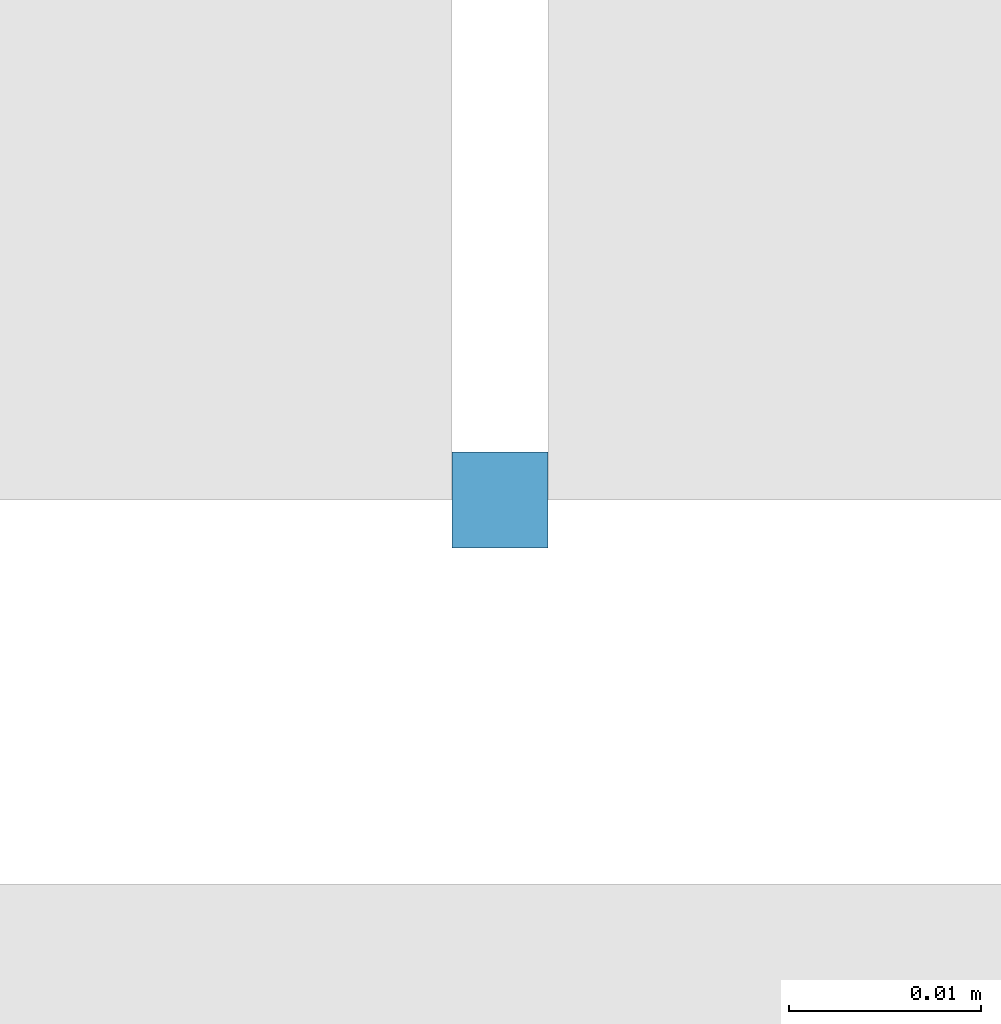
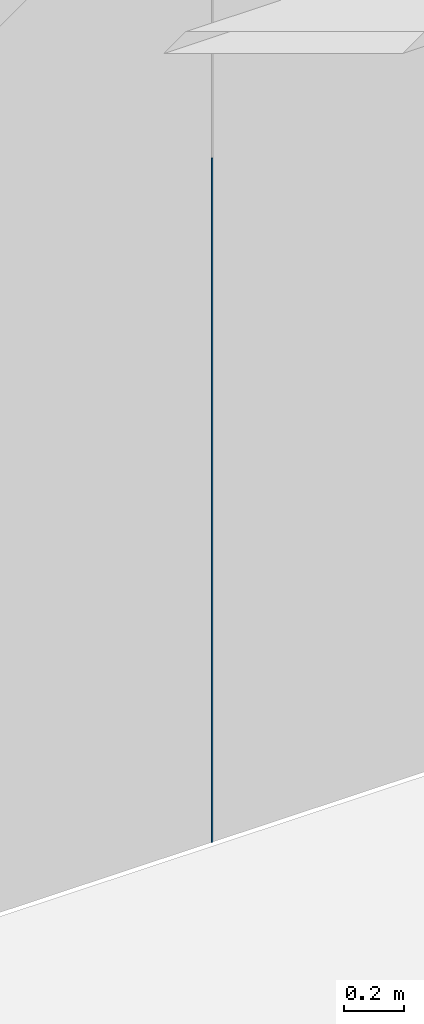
# One storey, part 78 of 302: 1 member, 1 element without a shape of its own.
"""IFC2X3 building model written with IfcOpenShell, lengths in metres."""

import ifcopenshell
import ifcopenshell.guid

model = None  # the IFC model being written
_history = None  # IfcOwnerHistory: only IFC2X3 demands one
_inside = {}  # id of a spatial element -> (the spatial element, [elements in it])
_under = {}  # id of a project, library or spatial element -> (it, [spatial elements below it])
_declared = {}  # id of a project -> (the project, [libraries it declares])
_typed = {}  # id of a type object -> (the type object, [elements of that type])
_made_of = {}  # id of a material, layer set ... -> (it, [elements and type objects made of it])


def new_model(schema):
    """Start an empty IFC model of exactly this schema.

    Asked for "IFC4X3", IfcOpenShell would pick the latest addendum, in which some entities
    have other attributes; the version numbers below select the first issue.
    IFC2X3 requires an IfcOwnerHistory on every rooted entity: one is made here for all.
    """
    global model, _history
    if schema == "IFC4X3":
        model = ifcopenshell.file(schema_version=(4, 3, 0, 0))
    else:
        model = ifcopenshell.file(schema=schema)
    _inside.clear()
    _under.clear()
    _declared.clear()
    _typed.clear()
    _made_of.clear()
    _history = None
    if model.schema == "IFC2X3":
        org = make("IfcOrganization", Name="unknown")
        user = make(
            "IfcPersonAndOrganization",
            ThePerson=make("IfcPerson", FamilyName="unknown"),
            TheOrganization=org,
        )
        app = make(
            "IfcApplication",
            ApplicationDeveloper=org,
            Version="unknown",
            ApplicationFullName="unknown",
            ApplicationIdentifier="unknown",
        )
        _history = make(
            "IfcOwnerHistory",
            OwningUser=user,
            OwningApplication=app,
            ChangeAction="ADDED",
            CreationDate=0,
        )
    return model


def make(cls, **values):
    """One entity of the class cls with the attributes given. An attribute that is None is left unset."""
    return model.create_entity(
        cls, **{name: value for name, value in values.items() if value is not None}
    )


def entity(cls, *values):
    """Any entity or typed value of the class cls, its attributes in the order of the schema. None: left unset."""
    e = model.create_entity(cls)
    for i, value in enumerate(values):
        if value is not None:
            e[i] = value
    return e


def rooted(cls, **values):
    """An entity with a GlobalId (a new one), such as an element, a storey or a relation."""
    return make(cls, GlobalId=ifcopenshell.guid.new(), OwnerHistory=_history, **values)


def si_unit(unit_type, name, prefix=None):
    """IfcSIUnit, for example si_unit("LENGTHUNIT", "METRE", prefix="MILLI")."""
    return make("IfcSIUnit", UnitType=unit_type, Prefix=prefix, Name=name)


def converted_unit(unit_type, name, factor, base, dimensions=None, offset=None):
    """IfcConversionBasedUnit, such as the inch: factor (a typed value) times the base unit."""
    return make(
        "IfcConversionBasedUnit"
        if offset is None
        else "IfcConversionBasedUnitWithOffset",
        ConversionOffset=offset,
        Dimensions=None
        if dimensions is None
        else entity("IfcDimensionalExponents", *dimensions),
        UnitType=unit_type,
        Name=name,
        ConversionFactor=make(
            "IfcMeasureWithUnit", ValueComponent=factor, UnitComponent=base
        ),
    )


def derived_unit(unit_type, elements):
    """IfcDerivedUnit: a product of units, each with its exponent."""
    return make(
        "IfcDerivedUnit",
        Elements=[
            make("IfcDerivedUnitElement", Unit=unit, Exponent=power)
            for unit, power in elements
        ],
        UnitType=unit_type,
    )


def assignment(units):
    """IfcUnitAssignment: the units of a project."""
    return None if units is None else make("IfcUnitAssignment", Units=units)


def point(xyz):
    """IfcCartesianPoint."""
    return None if xyz is None else make("IfcCartesianPoint", Coordinates=xyz)


def direction(xyz):
    """IfcDirection."""
    return None if xyz is None else make("IfcDirection", DirectionRatios=xyz)


def frame(location, z_axis=None, x_axis=None):
    """IfcAxis2Placement3D, a coordinate frame: its origin and axes. An axis left out is left unset."""
    return make(
        "IfcAxis2Placement3D",
        Location=point(location),
        Axis=direction(z_axis),
        RefDirection=direction(x_axis),
    )


def frame_2d(location, x_axis=None):
    """IfcAxis2Placement2D, a coordinate frame in the plane: its origin and x axis."""
    return make(
        "IfcAxis2Placement2D", Location=point(location), RefDirection=direction(x_axis)
    )


def origin():
    """The frame at (0, 0, 0) with its axes left unset."""
    return frame((0.0, 0.0, 0.0))


def place(relative_to, where):
    """IfcLocalPlacement: puts the frame where relative to a parent placement (None: the world)."""
    return make(
        "IfcLocalPlacement", PlacementRelTo=relative_to, RelativePlacement=where
    )


def context(
    kind, dimensions, precision=None, world=None, true_north=None, identifier=None
):
    """IfcGeometricRepresentationContext, for example the 3D "Model" context."""
    return make(
        "IfcGeometricRepresentationContext",
        ContextIdentifier=identifier,
        ContextType=kind,
        CoordinateSpaceDimension=dimensions,
        Precision=precision,
        WorldCoordinateSystem=world,
        TrueNorth=true_north,
    )


def subcontext(parent, identifier, kind, view, scale=None):
    """IfcGeometricRepresentationSubContext, for example "Body" below "Model"."""
    return make(
        "IfcGeometricRepresentationSubContext",
        ContextIdentifier=identifier,
        ContextType=kind,
        ParentContext=parent,
        TargetScale=scale,
        TargetView=view,
    )


def project(units=None, contexts=None):
    """IfcProject with its units and contexts."""
    return rooted(
        "IfcProject",
        Name="project",
        RepresentationContexts=contexts,
        UnitsInContext=assignment(units),
    )


def spatial(cls, under=None, at=None, **own):
    """A site, building, storey or space (cls), placed at a placement, below another one or the project."""
    s = rooted(cls, ObjectPlacement=at, **own)
    if under is not None:
        _under.setdefault(under.id(), (under, []))[1].append(s)
    return s


def profile(cls, at=None, kind="AREA", **sizes):
    """A parametric profile (cls). Its sizes go by their IFC names, for example OverallWidth=200.0."""
    return make(cls, ProfileType=kind, Position=at, **sizes)


def rectangle(**sizes):
    """IfcRectangleProfileDef."""
    return profile("IfcRectangleProfileDef", **sizes)


def extrude(swept, where, along, depth):
    """IfcExtrudedAreaSolid: the profile swept, set in the frame where, extruded along a direction by depth."""
    return make(
        "IfcExtrudedAreaSolid",
        SweptArea=swept,
        Position=where,
        ExtrudedDirection=direction(along),
        Depth=depth,
    )


def shape(context_of_items, identifier, shape_type, items):
    """IfcShapeRepresentation: the items that make up one representation, for example the "Body"."""
    return make(
        "IfcShapeRepresentation",
        ContextOfItems=context_of_items,
        RepresentationIdentifier=identifier,
        RepresentationType=shape_type,
        Items=items,
    )


def source(mapping_origin, context_of_items, identifier, shape_type, items):
    """IfcRepresentationMap: a shape defined once, which mapped items show again and again."""
    return make(
        "IfcRepresentationMap",
        MappingOrigin=mapping_origin,
        MappedRepresentation=shape(context_of_items, identifier, shape_type, items),
    )


def transform(
    local_origin,
    x_axis=None,
    y_axis=None,
    z_axis=None,
    scale=None,
    scale2=None,
    scale3=None,
    uniform=True,
):
    """IfcCartesianTransformationOperator3D, or its non-uniform kind. x_axis, y_axis, z_axis: its Axis1, 2, 3."""
    if uniform:
        return make(
            "IfcCartesianTransformationOperator3D",
            Axis1=direction(x_axis),
            Axis2=direction(y_axis),
            LocalOrigin=point(local_origin),
            Scale=scale,
            Axis3=direction(z_axis),
        )
    return make(
        "IfcCartesianTransformationOperator3DnonUniform",
        Axis1=direction(x_axis),
        Axis2=direction(y_axis),
        LocalOrigin=point(local_origin),
        Scale=scale,
        Axis3=direction(z_axis),
        Scale2=scale2,
        Scale3=scale3,
    )


def mapped(mapping_source, mapping_target):
    """IfcMappedItem: shows the shape of a source again, moved by a transform."""
    return make(
        "IfcMappedItem", MappingSource=mapping_source, MappingTarget=mapping_target
    )


def material(Name=None, Category=None):
    """IfcMaterial."""
    return make("IfcMaterial", Name=Name, Category=Category)


def made_of(thing, what):
    """Note that an element or type object is made of a material, layer set ...; save() writes the relation."""
    if what is not None:
        _made_of.setdefault(what.id(), (what, []))[1].append(thing)
    return thing


def type_object(cls, material=None, **own):
    """A type object (cls), such as IfcWallType, which elements share."""
    return made_of(rooted(cls, **own), material)


def type_shapes(of_type, sources):
    """Give a type object the sources (RepresentationMaps) that its elements show as mapped items."""
    of_type.RepresentationMaps = sources


def element(
    cls,
    number,
    at=None,
    inside=None,
    cuts=None,
    type_object=None,
    material=None,
    context=None,
    identifier="Body",
    shape_type=None,
    held_by="IfcProductDefinitionShape",
    body=None,
    shapes=None,
    **own,
):
    """One element of the class cls, such as IfcWall. Its Tag is "e" and its number.

    at: its placement. inside: the storey or other place that contains it. cuts: it is an
    opening in that element (IfcRelVoidsElement). A single representation is given by context,
    identifier, shape_type and body (its items); several are given by shapes. held_by: the class
    of the entity that holds the representations. save() writes the other relations.
    """
    e = rooted(cls, Tag="e%d" % number, ObjectPlacement=at, **own)
    if body is not None:
        shapes = [shape(context, identifier, shape_type, body)]
    if shapes is not None:
        e.Representation = make(held_by, Representations=shapes)
    if inside is not None:
        _inside.setdefault(inside.id(), (inside, []))[1].append(e)
    if cuts is not None:
        rooted(
            "IfcRelVoidsElement", RelatingBuildingElement=cuts, RelatedOpeningElement=e
        )
    if type_object is not None:
        _typed.setdefault(type_object.id(), (type_object, []))[1].append(e)
    return made_of(e, material)


def aggregate(whole, parts):
    """IfcRelAggregates: a whole, such as a stair, and the parts it consists of."""
    return rooted("IfcRelAggregates", RelatingObject=whole, RelatedObjects=parts)


def save(model, path):
    """Write the relations noted so far, then the file.

    IfcRelAggregates (storeys below a building ...), IfcRelContainedInSpatialStructure (elements
    in a storey), IfcRelDefinesByType, IfcRelAssociatesMaterial and IfcRelDeclares: one each for
    every whole, place, type object, material and project.
    """
    for whole, parts in _under.values():
        aggregate(whole, parts)
    for where, things in _inside.values():
        rooted(
            "IfcRelContainedInSpatialStructure",
            RelatedElements=things,
            RelatingStructure=where,
        )
    for kind, things in _typed.values():
        rooted("IfcRelDefinesByType", RelatedObjects=things, RelatingType=kind)
    for what, things in _made_of.values():
        rooted("IfcRelAssociatesMaterial", RelatedObjects=things, RelatingMaterial=what)
    for by, libraries in _declared.values():
        rooted("IfcRelDeclares", RelatingContext=by, RelatedDefinitions=libraries)
    model.write(path)


model = new_model("IFC2X3")

# Units and contexts
model_context = context("Model", 3, precision=1e-05, world=origin(), true_north=direction((6.12303176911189e-17, 1.0)))
body_context = subcontext(model_context, "Body", "Model", "MODEL_VIEW")
ifc_project = project(units=[si_unit("LENGTHUNIT", "METRE"), si_unit("AREAUNIT", "SQUARE_METRE"), si_unit("VOLUMEUNIT", "CUBIC_METRE"), converted_unit("PLANEANGLEUNIT", "DEGREE", entity("IfcRatioMeasure", 0.0174532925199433), si_unit("PLANEANGLEUNIT", "RADIAN"), dimensions=[0, 0, 0, 0, 0, 0, 0]), si_unit("MASSUNIT", "GRAM", prefix="KILO"), derived_unit("MASSDENSITYUNIT", [(si_unit("MASSUNIT", "GRAM", prefix="KILO"), 1), (si_unit("LENGTHUNIT", "METRE"), -3)]), derived_unit("MOMENTOFINERTIAUNIT", [(si_unit("LENGTHUNIT", "METRE"), 4)]), si_unit("TIMEUNIT", "SECOND"), si_unit("FREQUENCYUNIT", "HERTZ"), si_unit("THERMODYNAMICTEMPERATUREUNIT", "DEGREE_CELSIUS"), derived_unit("THERMALTRANSMITTANCEUNIT", [(si_unit("MASSUNIT", "GRAM", prefix="KILO"), 1), (si_unit("THERMODYNAMICTEMPERATUREUNIT", "KELVIN"), -1), (si_unit("TIMEUNIT", "SECOND"), -3)]), derived_unit("VOLUMETRICFLOWRATEUNIT", [(si_unit("LENGTHUNIT", "METRE"), 3), (si_unit("TIMEUNIT", "SECOND"), -1)]), si_unit("ELECTRICCURRENTUNIT", "AMPERE"), si_unit("ELECTRICVOLTAGEUNIT", "VOLT"), si_unit("POWERUNIT", "WATT"), si_unit("FORCEUNIT", "NEWTON", prefix="KILO"), si_unit("ILLUMINANCEUNIT", "LUX"), si_unit("LUMINOUSFLUXUNIT", "LUMEN"), si_unit("LUMINOUSINTENSITYUNIT", "CANDELA"), derived_unit("USERDEFINED", [(si_unit("MASSUNIT", "GRAM", prefix="KILO"), -1), (si_unit("LENGTHUNIT", "METRE"), -2), (si_unit("TIMEUNIT", "SECOND"), 3), (si_unit("LUMINOUSFLUXUNIT", "LUMEN"), 1)]), derived_unit("LINEARVELOCITYUNIT", [(si_unit("LENGTHUNIT", "METRE"), 1), (si_unit("TIMEUNIT", "SECOND"), -1)]), si_unit("PRESSUREUNIT", "PASCAL"), derived_unit("USERDEFINED", [(si_unit("LENGTHUNIT", "METRE"), -2), (si_unit("MASSUNIT", "GRAM", prefix="KILO"), 1), (si_unit("TIMEUNIT", "SECOND"), -2)]), derived_unit("LINEARFORCEUNIT", [(si_unit("MASSUNIT", "GRAM", prefix="KILO"), 1), (si_unit("LENGTHUNIT", "METRE"), 1), (si_unit("TIMEUNIT", "SECOND"), -2), (si_unit("LENGTHUNIT", "METRE"), -1)]), derived_unit("PLANARFORCEUNIT", [(si_unit("MASSUNIT", "GRAM", prefix="KILO"), 1), (si_unit("LENGTHUNIT", "METRE"), 1), (si_unit("TIMEUNIT", "SECOND"), -2), (si_unit("LENGTHUNIT", "METRE"), -2)])], contexts=[model_context])

# Site, building, storey
site_placement = place(None, origin())
site = spatial("IfcSite", under=ifc_project, at=site_placement, Name="Default", CompositionType="ELEMENT")
building_placement = place(site_placement, origin())
building = spatial("IfcBuilding", under=site, at=building_placement, CompositionType="ELEMENT")
storey_placement = place(building_placement, frame((0.0, 0.0, -1.3)))
storey = spatial("IfcBuildingStorey", under=building, at=storey_placement, Name="00_EG", CompositionType="ELEMENT", Elevation=-1.3)

# Curtain wall, member
curtain_wall_type = type_object("IfcCurtainWallType", Name="Fassade:Curtain Wall 1", PredefinedType="NOTDEFINED")
curtain_wall_placement = place(storey_placement, frame((0.0, 0.0, 1.3)))
curtain_wall = element("IfcCurtainWall", 1, at=curtain_wall_placement, inside=storey, type_object=curtain_wall_type, Name="Fassade:Curtain Wall 1", ObjectType="Fassade:Curtain Wall 1")
ifc_material = material(Name="Aluminium")
member_type = type_object("IfcMemberType", Name="Rectangular Mullion:Paneele Spalt", PredefinedType="MULLION", material=ifc_material)
shared_shape = source(origin(), body_context, "Body", "SweptSolid", [
    extrude(rectangle(XDim=0.005, YDim=0.005, at=frame_2d((0.0, -6.50521303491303e-19), x_axis=(1.0, 0.0))), frame((0.0, 0.0, -2.79999999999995), z_axis=(0.0, 0.0, 1.0), x_axis=(0.0, -1.0, 0.0)), (0.0, 0.0, 1.0), 2.79999999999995),
])
type_shapes(member_type, [shared_shape])
member_placement = place(storey_placement, frame((-223.610111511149, 45.578088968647, 1.27), z_axis=(0.0, 0.0, -1.0), x_axis=(-1.0, 0.0, 0.0)))
member = element("IfcMember", 2, at=member_placement, type_object=member_type, material=ifc_material, Name="Rectangular Mullion:Paneele Spalt", ObjectType="Rectangular Mullion:Paneele Spalt", context=body_context, shape_type="MappedRepresentation", body=[
    mapped(shared_shape, transform((0.0, 0.0, 0.0), scale=1.0)),
])
aggregate(curtain_wall, [member])

save(model, "model.ifc")
